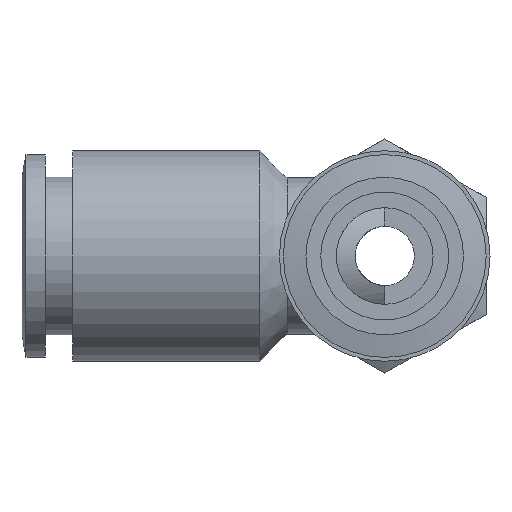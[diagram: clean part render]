
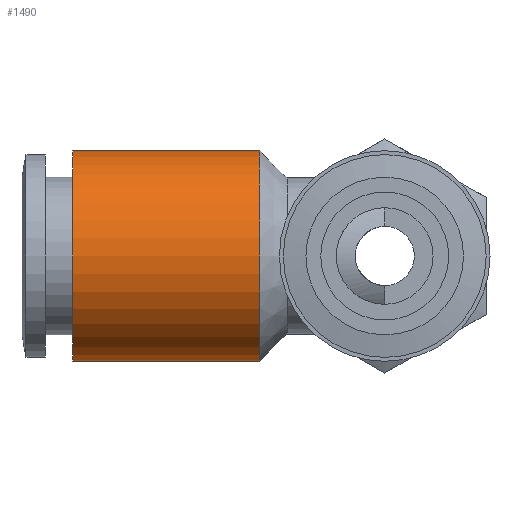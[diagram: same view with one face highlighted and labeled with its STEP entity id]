
A CAD part, left-side view. The second image highlights one B-rep face of the part: STEP entity #1490.
In plain terms, the highlighted cylindrical face has radius 6.75 mm (diameter 13.5 mm), a full revolution.
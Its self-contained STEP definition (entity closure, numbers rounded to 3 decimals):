
#1456=CARTESIAN_POINT('',(-6.75,8.,0.0));
#1457=VERTEX_POINT('',#1456);
#1458=CARTESIAN_POINT('',(0.0,8.,0.0));
#1459=DIRECTION('',(0.0,1.0,0.0));
#1460=DIRECTION('',(-1.0,0.0,0.0));
#1461=AXIS2_PLACEMENT_3D('',#1458,#1459,#1460);
#1462=CIRCLE('',#1461,6.75);
#1463=EDGE_CURVE('',#1457,#1457,#1462,.T.);
#1471=CARTESIAN_POINT('',(0.0,14.0,0.0));
#1472=DIRECTION('',(0.0,1.0,0.0));
#1473=DIRECTION('',(-1.0,0.0,0.0));
#1474=AXIS2_PLACEMENT_3D('',#1471,#1472,#1473);
#1475=CYLINDRICAL_SURFACE('',#1474,6.75);
#1476=CARTESIAN_POINT('',(-6.75,20.0,0.0));
#1477=VERTEX_POINT('',#1476);
#1478=CARTESIAN_POINT('',(0.0,20.0,0.0));
#1479=DIRECTION('',(0.0,1.0,0.0));
#1480=DIRECTION('',(-1.0,0.0,0.0));
#1481=AXIS2_PLACEMENT_3D('',#1478,#1479,#1480);
#1482=CIRCLE('',#1481,6.75);
#1483=EDGE_CURVE('',#1477,#1477,#1482,.T.);
#1484=ORIENTED_EDGE('',*,*,#1483,.F.);
#1485=EDGE_LOOP('',(#1484));
#1486=FACE_OUTER_BOUND('',#1485,.T.);
#1487=ORIENTED_EDGE('',*,*,#1463,.T.);
#1488=EDGE_LOOP('',(#1487));
#1489=FACE_BOUND('',#1488,.T.);
#1490=ADVANCED_FACE('',(#1486,#1489),#1475,.T.);
